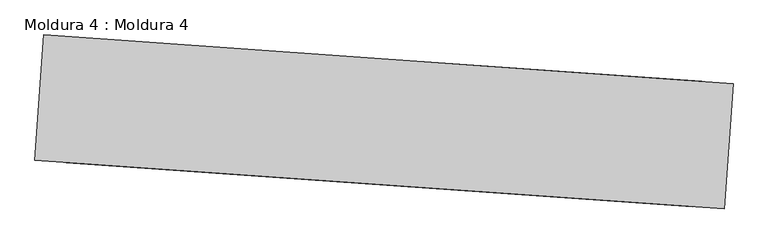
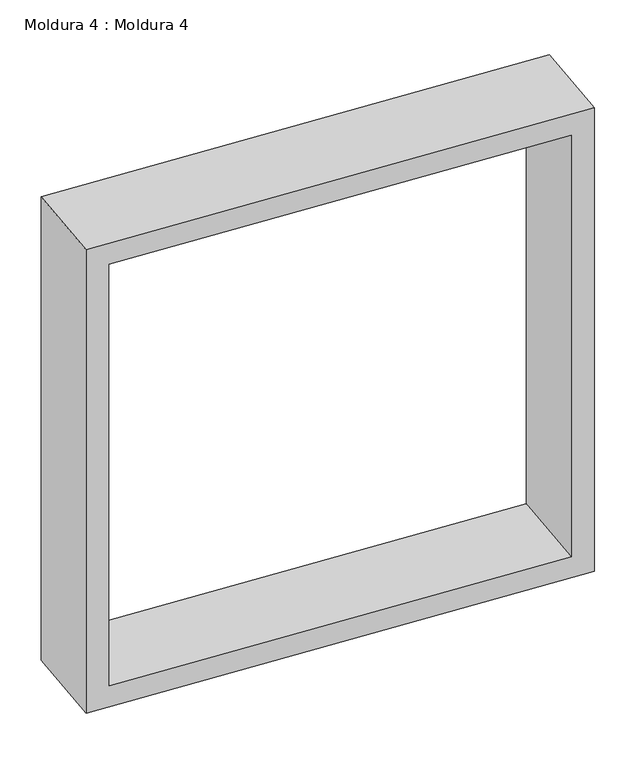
"""IFC4 building model written with IfcOpenShell, lengths in millimetres: proxy geometry, Moldura 4 : Moldura 4."""

import ifcopenshell
import ifcopenshell.guid

model = None  # the IFC model being written
_history = None  # IfcOwnerHistory: only IFC2X3 demands one
_inside = {}  # id of a spatial element -> (the spatial element, [elements in it])
_under = {}  # id of a project, library or spatial element -> (it, [spatial elements below it])
_declared = {}  # id of a project -> (the project, [libraries it declares])
_typed = {}  # id of a type object -> (the type object, [elements of that type])
_made_of = {}  # id of a material, layer set ... -> (it, [elements and type objects made of it])


def new_model(schema):
    """Start an empty IFC model of exactly this schema.

    Asked for "IFC4X3", IfcOpenShell would pick the latest addendum, in which some entities
    have other attributes; the version numbers below select the first issue.
    IFC2X3 requires an IfcOwnerHistory on every rooted entity: one is made here for all.
    """
    global model, _history
    if schema == "IFC4X3":
        model = ifcopenshell.file(schema_version=(4, 3, 0, 0))
    else:
        model = ifcopenshell.file(schema=schema)
    _inside.clear()
    _under.clear()
    _declared.clear()
    _typed.clear()
    _made_of.clear()
    _history = None
    if model.schema == "IFC2X3":
        org = make("IfcOrganization", Name="unknown")
        user = make(
            "IfcPersonAndOrganization",
            ThePerson=make("IfcPerson", FamilyName="unknown"),
            TheOrganization=org,
        )
        app = make(
            "IfcApplication",
            ApplicationDeveloper=org,
            Version="unknown",
            ApplicationFullName="unknown",
            ApplicationIdentifier="unknown",
        )
        _history = make(
            "IfcOwnerHistory",
            OwningUser=user,
            OwningApplication=app,
            ChangeAction="ADDED",
            CreationDate=0,
        )
    return model


def make(cls, **values):
    """One entity of the class cls with the attributes given. An attribute that is None is left unset."""
    return model.create_entity(
        cls, **{name: value for name, value in values.items() if value is not None}
    )


def rooted(cls, **values):
    """An entity with a GlobalId (a new one), such as an element, a storey or a relation."""
    return make(cls, GlobalId=ifcopenshell.guid.new(), OwnerHistory=_history, **values)


def si_unit(unit_type, name, prefix=None):
    """IfcSIUnit, for example si_unit("LENGTHUNIT", "METRE", prefix="MILLI")."""
    return make("IfcSIUnit", UnitType=unit_type, Prefix=prefix, Name=name)


def assignment(units):
    """IfcUnitAssignment: the units of a project."""
    return None if units is None else make("IfcUnitAssignment", Units=units)


def point(xyz):
    """IfcCartesianPoint."""
    return None if xyz is None else make("IfcCartesianPoint", Coordinates=xyz)


def direction(xyz):
    """IfcDirection."""
    return None if xyz is None else make("IfcDirection", DirectionRatios=xyz)


def frame(location, z_axis=None, x_axis=None):
    """IfcAxis2Placement3D, a coordinate frame: its origin and axes. An axis left out is left unset."""
    return make(
        "IfcAxis2Placement3D",
        Location=point(location),
        Axis=direction(z_axis),
        RefDirection=direction(x_axis),
    )


def origin():
    """The frame at (0, 0, 0) with its axes left unset."""
    return frame((0.0, 0.0, 0.0))


def place(relative_to, where):
    """IfcLocalPlacement: puts the frame where relative to a parent placement (None: the world)."""
    return make(
        "IfcLocalPlacement", PlacementRelTo=relative_to, RelativePlacement=where
    )


def context(
    kind, dimensions, precision=None, world=None, true_north=None, identifier=None
):
    """IfcGeometricRepresentationContext, for example the 3D "Model" context."""
    return make(
        "IfcGeometricRepresentationContext",
        ContextIdentifier=identifier,
        ContextType=kind,
        CoordinateSpaceDimension=dimensions,
        Precision=precision,
        WorldCoordinateSystem=world,
        TrueNorth=true_north,
    )


def project(units=None, contexts=None):
    """IfcProject with its units and contexts."""
    return rooted(
        "IfcProject",
        Name="project",
        RepresentationContexts=contexts,
        UnitsInContext=assignment(units),
    )


def spatial(cls, under=None, at=None, **own):
    """A site, building, storey or space (cls), placed at a placement, below another one or the project."""
    s = rooted(cls, ObjectPlacement=at, **own)
    if under is not None:
        _under.setdefault(under.id(), (under, []))[1].append(s)
    return s


def polyline(points):
    """IfcPolyline through the points."""
    return make("IfcPolyline", Points=[point(p) for p in points])


def outline(outer, holes=None, kind="AREA"):
    """IfcArbitraryClosedProfileDef: a profile drawn as a closed curve; with holes, ...WithVoids."""
    if holes is None:
        return make("IfcArbitraryClosedProfileDef", ProfileType=kind, OuterCurve=outer)
    return make(
        "IfcArbitraryProfileDefWithVoids",
        ProfileType=kind,
        OuterCurve=outer,
        InnerCurves=holes,
    )


def extrude(swept, where, along, depth):
    """IfcExtrudedAreaSolid: the profile swept, set in the frame where, extruded along a direction by depth."""
    return make(
        "IfcExtrudedAreaSolid",
        SweptArea=swept,
        Position=where,
        ExtrudedDirection=direction(along),
        Depth=depth,
    )


def shape(context_of_items, identifier, shape_type, items):
    """IfcShapeRepresentation: the items that make up one representation, for example the "Body"."""
    return make(
        "IfcShapeRepresentation",
        ContextOfItems=context_of_items,
        RepresentationIdentifier=identifier,
        RepresentationType=shape_type,
        Items=items,
    )


def source(mapping_origin, context_of_items, identifier, shape_type, items):
    """IfcRepresentationMap: a shape defined once, which mapped items show again and again."""
    return make(
        "IfcRepresentationMap",
        MappingOrigin=mapping_origin,
        MappedRepresentation=shape(context_of_items, identifier, shape_type, items),
    )


def transform(
    local_origin,
    x_axis=None,
    y_axis=None,
    z_axis=None,
    scale=None,
    scale2=None,
    scale3=None,
    uniform=True,
):
    """IfcCartesianTransformationOperator3D, or its non-uniform kind. x_axis, y_axis, z_axis: its Axis1, 2, 3."""
    if uniform:
        return make(
            "IfcCartesianTransformationOperator3D",
            Axis1=direction(x_axis),
            Axis2=direction(y_axis),
            LocalOrigin=point(local_origin),
            Scale=scale,
            Axis3=direction(z_axis),
        )
    return make(
        "IfcCartesianTransformationOperator3DnonUniform",
        Axis1=direction(x_axis),
        Axis2=direction(y_axis),
        LocalOrigin=point(local_origin),
        Scale=scale,
        Axis3=direction(z_axis),
        Scale2=scale2,
        Scale3=scale3,
    )


def mapped(mapping_source, mapping_target):
    """IfcMappedItem: shows the shape of a source again, moved by a transform."""
    return make(
        "IfcMappedItem", MappingSource=mapping_source, MappingTarget=mapping_target
    )


def made_of(thing, what):
    """Note that an element or type object is made of a material, layer set ...; save() writes the relation."""
    if what is not None:
        _made_of.setdefault(what.id(), (what, []))[1].append(thing)
    return thing


def element(
    cls,
    number,
    at=None,
    inside=None,
    cuts=None,
    type_object=None,
    material=None,
    context=None,
    identifier="Body",
    shape_type=None,
    held_by="IfcProductDefinitionShape",
    body=None,
    shapes=None,
    **own,
):
    """One element of the class cls, such as IfcWall. Its Tag is "e" and its number.

    at: its placement. inside: the storey or other place that contains it. cuts: it is an
    opening in that element (IfcRelVoidsElement). A single representation is given by context,
    identifier, shape_type and body (its items); several are given by shapes. held_by: the class
    of the entity that holds the representations. save() writes the other relations.
    """
    e = rooted(cls, Tag="e%d" % number, ObjectPlacement=at, **own)
    if body is not None:
        shapes = [shape(context, identifier, shape_type, body)]
    if shapes is not None:
        e.Representation = make(held_by, Representations=shapes)
    if inside is not None:
        _inside.setdefault(inside.id(), (inside, []))[1].append(e)
    if cuts is not None:
        rooted(
            "IfcRelVoidsElement", RelatingBuildingElement=cuts, RelatedOpeningElement=e
        )
    if type_object is not None:
        _typed.setdefault(type_object.id(), (type_object, []))[1].append(e)
    return made_of(e, material)


def aggregate(whole, parts):
    """IfcRelAggregates: a whole, such as a stair, and the parts it consists of."""
    return rooted("IfcRelAggregates", RelatingObject=whole, RelatedObjects=parts)


def save(model, path):
    """Write the relations noted so far, then the file.

    IfcRelAggregates (storeys below a building ...), IfcRelContainedInSpatialStructure (elements
    in a storey), IfcRelDefinesByType, IfcRelAssociatesMaterial and IfcRelDeclares: one each for
    every whole, place, type object, material and project.
    """
    for whole, parts in _under.values():
        aggregate(whole, parts)
    for where, things in _inside.values():
        rooted(
            "IfcRelContainedInSpatialStructure",
            RelatedElements=things,
            RelatingStructure=where,
        )
    for kind, things in _typed.values():
        rooted("IfcRelDefinesByType", RelatedObjects=things, RelatingType=kind)
    for what, things in _made_of.values():
        rooted("IfcRelAssociatesMaterial", RelatedObjects=things, RelatingMaterial=what)
    for by, libraries in _declared.values():
        rooted("IfcRelDeclares", RelatingContext=by, RelatedDefinitions=libraries)
    model.write(path)


def moldura_4_moldura_4_390eebc0(model_context):
    return source(origin(), model_context, "Body", "SweptSolid", [
        extrude(outline(polyline([(1050.0, -50.0), (-49.9999999, -50.0), (-49.9999999, 1050.0), (1050.0, 1050.0), (1050.0, -50.0)]), holes=[polyline([(1000.0000001, 1000.0), (0.0, 1000.0), (0.0, 0.0), (1000.0000001, 0.0), (1000.0000001, 1000.0)])]), frame((23778.675623, -9988.3123039, 6300.0), z_axis=(0.07044601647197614, 0.9975155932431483, 0.0), x_axis=(0.9975155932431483, -0.07044601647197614, 0.0)), (0.0, 0.0, 1.0), 200.0),
    ])


if __name__ == "__main__":
    model = new_model("IFC4")
    model_context = context("Model", 3, world=origin())
    ifc_project = project(units=[si_unit("LENGTHUNIT", "METRE", prefix="MILLI")], contexts=[model_context])
    site = spatial("IfcSite", under=ifc_project)
    building = spatial("IfcBuilding", under=site)
    placement = place(None, origin())
    moldura_4_moldura_4_shape = moldura_4_moldura_4_390eebc0(model_context)
    element("IfcBuildingElementProxy", 1, Name="Moldura 4 : Moldura 4", ObjectType="Moldura 4 : Moldura 4", at=placement, inside=building, context=model_context, shape_type="MappedRepresentation", body=[
        mapped(moldura_4_moldura_4_shape, transform((0.0, 0.0, 0.0), x_axis=(1.0, 0.0, 0.0), y_axis=(0.0, 1.0, 0.0), z_axis=(0.0, 0.0, 1.0))),
    ])
    save(model, "model.ifc")
